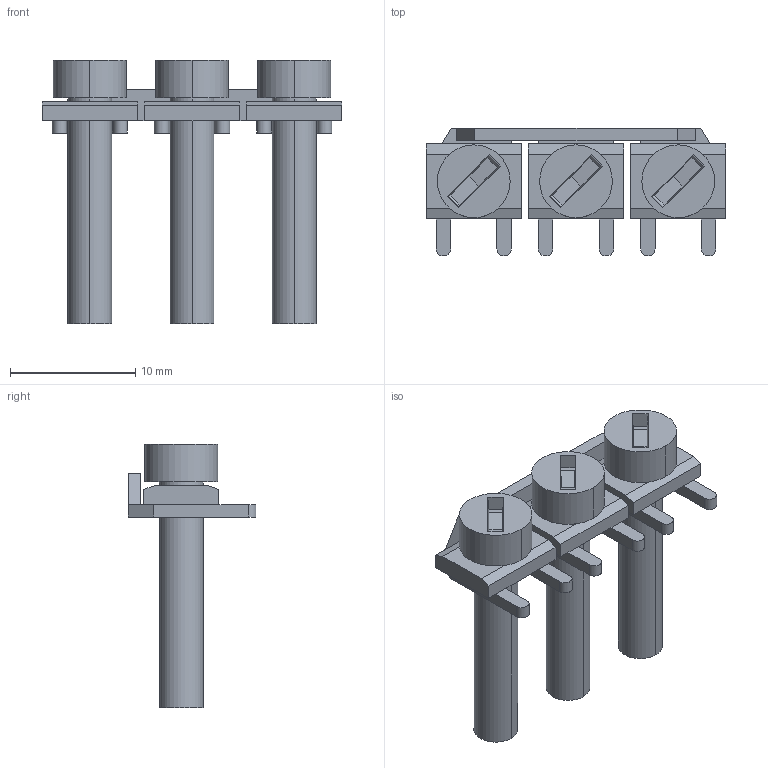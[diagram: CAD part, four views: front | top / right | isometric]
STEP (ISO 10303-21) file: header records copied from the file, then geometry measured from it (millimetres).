
FILE_DESCRIPTION( ('This file contains a STEP AP42 implementation' ,'as created by ZW3D STEP Interface translator.') ,'2;1' );
FILE_NAME( 'FB-3-RTK-S_3D.stp' ,'23 729.115115', (''), ('ZWCAD Software Co.'), 'Version 1.0', 'ZW3D to STEP translator', '' );
FILE_SCHEMA(('AUTOMOTIVE_DESIGN { 1 0 10303 214 1 1 1 1 }'));
Length unit declared in the file: millimetre
Products named in the file (2): 0; FB_10-RTK_S-select
Bounding box: 23.9 x 10.2 x 21 mm (x, y, z)
Volume: 1032.8 mm3; surface area: 1551.4 mm2
Topology: 1 solids, 1 shells, 123 faces, 305 edges, 196 vertices
Faces by surface type: plane 96, cylinder 27
Entity records: 3750 total; most frequent: CARTESIAN_POINT 625, ORIENTED_EDGE 610, DIRECTION 607, EDGE_CURVE 305, VECTOR 251, LINE 251, VERTEX_POINT 196, AXIS2_PLACEMENT_3D 178
